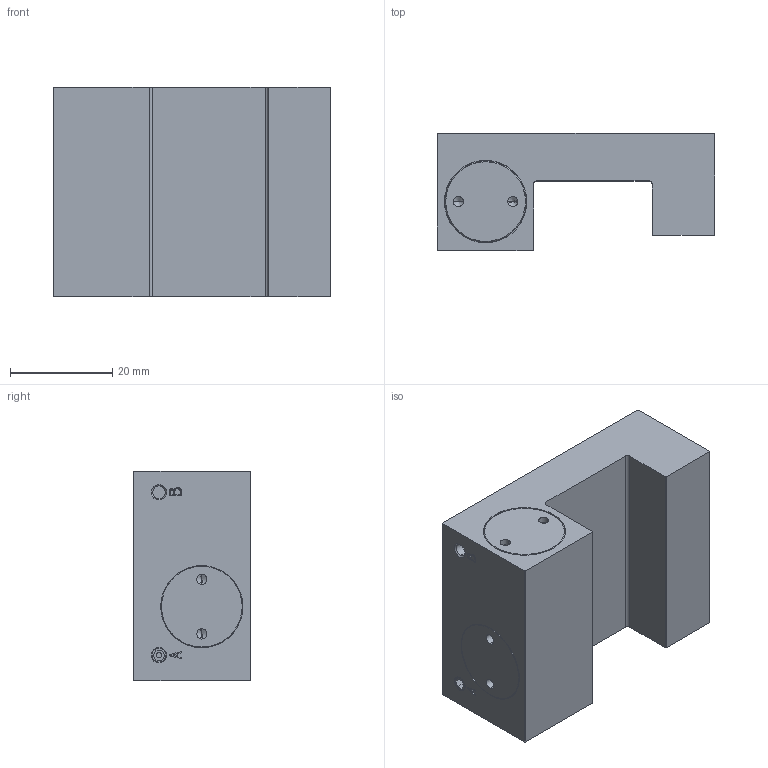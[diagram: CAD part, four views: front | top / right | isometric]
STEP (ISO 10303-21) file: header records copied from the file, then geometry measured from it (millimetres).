
FILE_DESCRIPTION( ( '' ), '1' );
FILE_NAME( 'E:/04 嬴檜蠱滌/0404 ZIMMER/040414 ZIMMER CAD download/MCP/MCP2501H---.stp', '2020-04-16T10:02:53', ( '' ), ( '' ), ' ', ' ', ' ' );
FILE_SCHEMA( ( 'automotive_design' ) );
Length unit declared in the file: millimetre
Products named in the file (1): 1
Bounding box: 54.4 x 23.05 x 41 mm (x, y, z)
Volume: 36630.3 mm3; surface area: 9576.5 mm2
Topology: 1 solids, 1 shells, 114 faces, 268 edges, 168 vertices
Faces by surface type: plane 60, cylinder 32, cone 22
Entity records: 6272 total; most frequent: DIRECTION 570, STYLED_ITEM 543, PRESENTATION_STYLE_ASSIGNMENT 543, CARTESIAN_POINT 543, COLOUR_RGB 543, ORIENTED_EDGE 520, EDGE_CURVE 260, CURVE_STYLE 260
